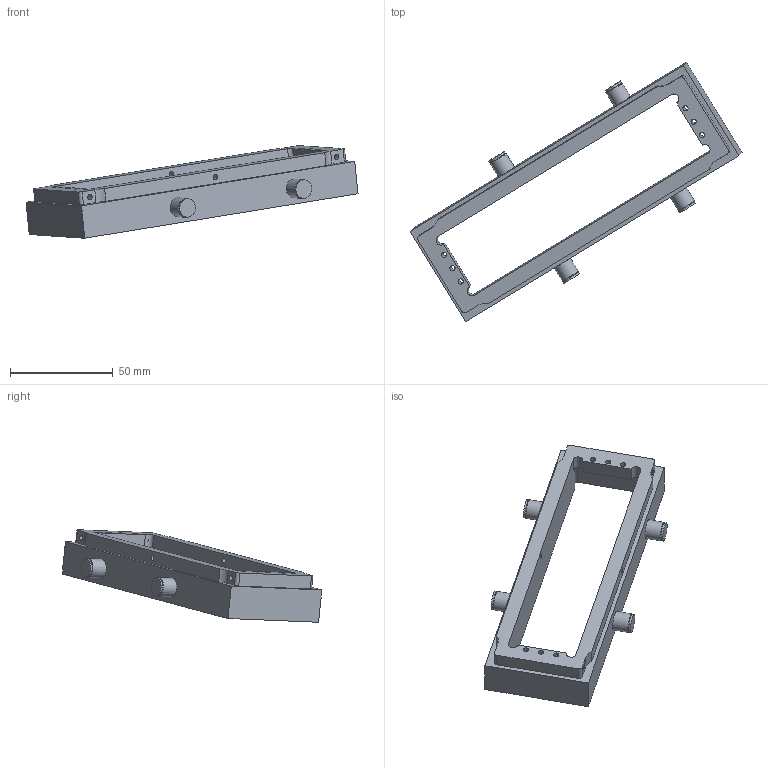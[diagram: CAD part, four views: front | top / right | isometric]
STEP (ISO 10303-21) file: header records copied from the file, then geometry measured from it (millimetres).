
FILE_DESCRIPTION((''),'2;1');
FILE_NAME('C:\old_Drawings\shrinkwrapped website .stp files\561450-STP.stp','2011-06-06T09:35:41',('GaryRobinson'),(''),'Autodesk Inventor 2011','Autodesk Inventor 2011','');
FILE_SCHEMA(('CONFIG_CONTROL_DESIGN'));
Length unit declared in the file: inch
Products named in the file (1): 561450-STP
Bounding box: 161.39 x 126.23 x 44.97 mm (x, y, z)
Surface area: 28226.3 mm2 (no closed solid volume)
Topology: 0 solids, 9 shells, 111 faces, 239 edges, 155 vertices
Faces by surface type: plane 47, cylinder 44, cone 20
Full cylindrical faces by diameter (mm): 2.54 x12, 6.353 x4, 6.985 x4, 9 x4, 9.144 x4
Entity records: 2891 total; most frequent: DIRECTION 508, CARTESIAN_POINT 436, ORIENTED_EDGE 360, AXIS2_PLACEMENT_3D 216, EDGE_LOOP 186, EDGE_CURVE 180, VERTEX_POINT 144, FACE_OUTER_BOUND 111
